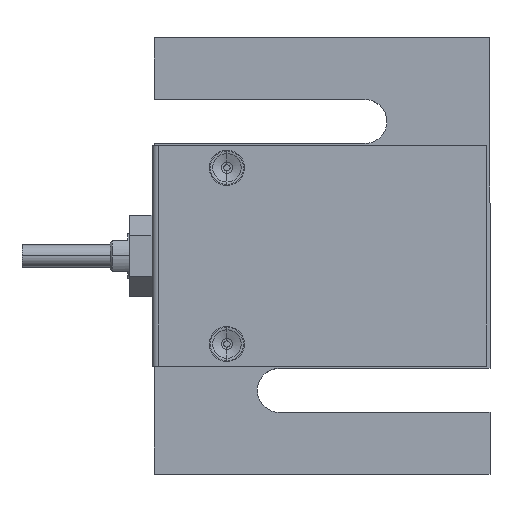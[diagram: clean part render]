
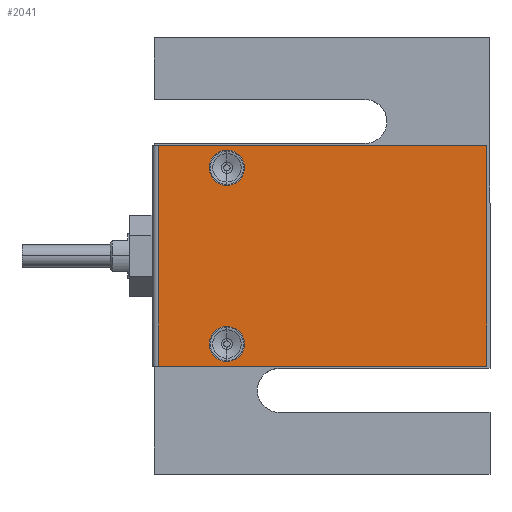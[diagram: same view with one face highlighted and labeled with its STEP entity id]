
A CAD part, top view. The second image highlights one B-rep face of the part: STEP entity #2041.
In plain terms, the highlighted planar face has unit normal (0, 0, 1) as drawn and (0, 0, -1) by its records, which use the part's own axes.
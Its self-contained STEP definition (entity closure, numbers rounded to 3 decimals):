
#40 = ORIENTED_EDGE ( 'NONE', *, *, #551, .F. ) ;
#41 = ORIENTED_EDGE ( 'NONE', *, *, #552, .T. ) ;
#42 = ORIENTED_EDGE ( 'NONE', *, *, #553, .T. ) ;
#43 = ORIENTED_EDGE ( 'NONE', *, *, #554, .F. ) ;
#199 = CARTESIAN_POINT ( 'NONE',  ( 21., 45., -13.64 ) ) ;
#200 = DIRECTION ( 'NONE',  ( 0., 0., 1. ) ) ;
#201 = DIRECTION ( 'NONE',  ( 1., 0., 0. ) ) ;
#236 = CARTESIAN_POINT ( 'NONE',  ( -38., 50., -13.64 ) ) ;
#237 = LINE ( 'NONE', #236, #1846 ) ;
#238 = CARTESIAN_POINT ( 'NONE',  ( 21., 5., -13.64 ) ) ;
#239 = DIRECTION ( 'NONE',  ( 0., 0., 1. ) ) ;
#240 = DIRECTION ( 'NONE',  ( 1., 0., 0. ) ) ;
#242 = LINE ( 'NONE', #251, #1848 ) ;
#243 = CARTESIAN_POINT ( 'NONE',  ( 21., 45., -13.64 ) ) ;
#244 = DIRECTION ( 'NONE',  ( 0., 0., 1. ) ) ;
#245 = DIRECTION ( 'NONE',  ( 1., 0., 0. ) ) ;
#246 = DIRECTION ( 'NONE',  ( -1., 0., 0. ) ) ;
#247 = LINE ( 'NONE', #249, #1844 ) ;
#249 = CARTESIAN_POINT ( 'NONE',  ( 36.5, 50., -13.64 ) ) ;
#250 = DIRECTION ( 'NONE',  ( 0., -1., 0. ) ) ;
#251 = CARTESIAN_POINT ( 'NONE',  ( -38., 0., -13.64 ) ) ;
#252 = DIRECTION ( 'NONE',  ( -1., 0., 0. ) ) ;
#253 = LINE ( 'NONE', #254, #1842 ) ;
#254 = CARTESIAN_POINT ( 'NONE',  ( -38., 50., -13.64 ) ) ;
#255 = DIRECTION ( 'NONE',  ( 0., -1., 0. ) ) ;
#536 = EDGE_CURVE ( 'NONE', #2930, #2931, #1877, .T. ) ;
#549 = EDGE_CURVE ( 'NONE', #2940, #2944, #1849, .T. ) ;
#550 = EDGE_CURVE ( 'NONE', #2931, #2930, #1851, .T. ) ;
#551 = EDGE_CURVE ( 'NONE', #3188, #3192, #237, .T. ) ;
#552 = EDGE_CURVE ( 'NONE', #3188, #2945, #247, .T. ) ;
#553 = EDGE_CURVE ( 'NONE', #2945, #3194, #242, .T. ) ;
#554 = EDGE_CURVE ( 'NONE', #3192, #3194, #253, .T. ) ;
#1043 = CARTESIAN_POINT ( 'NONE',  ( 21., 5., -13.64 ) ) ;
#1044 = DIRECTION ( 'NONE',  ( 0., 0., 1. ) ) ;
#1045 = DIRECTION ( 'NONE',  ( 1., 0., 0. ) ) ;
#1842 = VECTOR ( 'NONE', #255, 1000. ) ;
#1844 = VECTOR ( 'NONE', #250, 1000. ) ;
#1845 = AXIS2_PLACEMENT_3D ( 'NONE', #243, #244, #245 ) ;
#1846 = VECTOR ( 'NONE', #246, 1000. ) ;
#1847 = AXIS2_PLACEMENT_3D ( 'NONE', #238, #239, #240 ) ;
#1848 = VECTOR ( 'NONE', #252, 1000. ) ;
#1849 = CIRCLE ( 'NONE', #1847, 4. ) ;
#1851 = CIRCLE ( 'NONE', #1845, 4. ) ;
#1875 = AXIS2_PLACEMENT_3D ( 'NONE', #199, #200, #201 ) ;
#1877 = CIRCLE ( 'NONE', #1875, 4. ) ;
#1904 = EDGE_CURVE ( 'NONE', #2944, #2940, #2347, .T. ) ;
#2041 = ADVANCED_FACE ( 'NONE', ( #3465, #3458, #3468 ), #3469, .F. ) ;
#2346 = AXIS2_PLACEMENT_3D ( 'NONE', #1043, #1044, #1045 ) ;
#2347 = CIRCLE ( 'NONE', #2346, 4. ) ;
#2921 = ORIENTED_EDGE ( 'NONE', *, *, #549, .T. ) ;
#2922 = ORIENTED_EDGE ( 'NONE', *, *, #1904, .T. ) ;
#2923 = ORIENTED_EDGE ( 'NONE', *, *, #550, .T. ) ;
#2925 = ORIENTED_EDGE ( 'NONE', *, *, #536, .T. ) ;
#2930 = VERTEX_POINT ( 'NONE', #3813 ) ;
#2931 = VERTEX_POINT ( 'NONE', #3806 ) ;
#2940 = VERTEX_POINT ( 'NONE', #3821 ) ;
#2944 = VERTEX_POINT ( 'NONE', #3825 ) ;
#2945 = VERTEX_POINT ( 'NONE', #3826 ) ;
#2974 = EDGE_LOOP ( 'NONE', ( #40, #41, #42, #43 ) ) ;
#3188 = VERTEX_POINT ( 'NONE', #3948 ) ;
#3192 = VERTEX_POINT ( 'NONE', #3943 ) ;
#3194 = VERTEX_POINT ( 'NONE', #3945 ) ;
#3266 = EDGE_LOOP ( 'NONE', ( #2923, #2925 ) ) ;
#3274 = EDGE_LOOP ( 'NONE', ( #2921, #2922 ) ) ;
#3458 = FACE_BOUND ( 'NONE', #3266, .T. ) ;
#3461 = DIRECTION ( 'NONE',  ( 0., 0., 1. ) ) ;
#3465 = FACE_BOUND ( 'NONE', #3274, .T. ) ;
#3466 = CARTESIAN_POINT ( 'NONE',  ( -38., 50., -13.64 ) ) ;
#3468 = FACE_OUTER_BOUND ( 'NONE', #2974, .T. ) ;
#3469 = PLANE ( 'NONE',  #4455 ) ;
#3470 = DIRECTION ( 'NONE',  ( 1., 0., 0. ) ) ;
#3806 = CARTESIAN_POINT ( 'NONE',  ( 25., 45., -13.64 ) ) ;
#3813 = CARTESIAN_POINT ( 'NONE',  ( 17., 45., -13.64 ) ) ;
#3821 = CARTESIAN_POINT ( 'NONE',  ( 25., 5., -13.64 ) ) ;
#3825 = CARTESIAN_POINT ( 'NONE',  ( 17., 5., -13.64 ) ) ;
#3826 = CARTESIAN_POINT ( 'NONE',  ( 36.5, 0., -13.64 ) ) ;
#3943 = CARTESIAN_POINT ( 'NONE',  ( -38., 50., -13.64 ) ) ;
#3945 = CARTESIAN_POINT ( 'NONE',  ( -38., 0., -13.64 ) ) ;
#3948 = CARTESIAN_POINT ( 'NONE',  ( 36.5, 50., -13.64 ) ) ;
#4455 = AXIS2_PLACEMENT_3D ( 'NONE', #3466, #3461, #3470 ) ;
